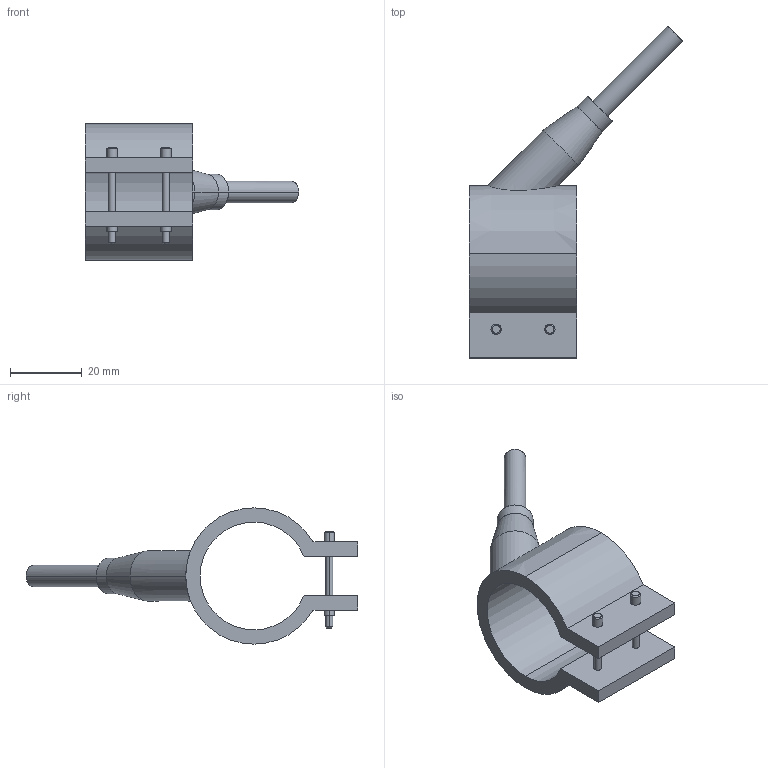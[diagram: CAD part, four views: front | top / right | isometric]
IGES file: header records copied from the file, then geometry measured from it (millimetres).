
Start section: START RECORD GO HERE.
Global section: file name: 29030030.igs; native system: DASSAULT SYSTEMES CATIA V5 R20 - www.3ds.com; preprocessor: CATIA Version 5 Release 20 ; author: Utente; organization: NB04-ASUS; date: 20210327.100727; units: millimetre
Bounding box: 59.55 x 92.55 x 38 mm (x, y, z)
Surface area: 10241.3 mm2 (no closed solid volume)
Topology: 0 solids, 0 shells, 54 faces, 244 edges, 244 vertices
Faces by surface type: revolution 38, plane 16
